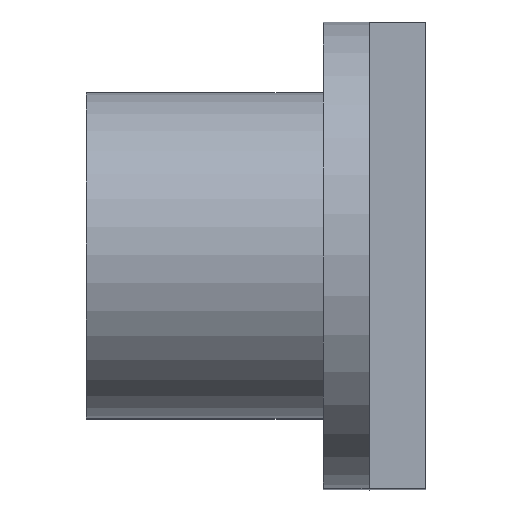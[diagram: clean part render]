
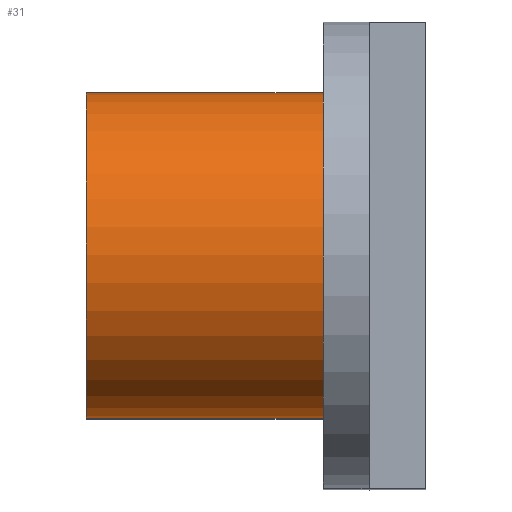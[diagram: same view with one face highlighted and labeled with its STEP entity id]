
A CAD part, top view. The second image highlights one B-rep face of the part: STEP entity #31.
In plain terms, the highlighted cylindrical face has radius 2.3 mm (diameter 4.6 mm), a partial arc.
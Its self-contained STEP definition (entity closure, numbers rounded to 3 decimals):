
#1 = VERTEX_POINT ( 'NONE', #568 ) ;
#14 = DIRECTION ( 'NONE',  ( 1., 0., 0. ) ) ;
#31 = ADVANCED_FACE ( 'NONE', ( #376 ), #41, .T. ) ;
#37 = CIRCLE ( 'NONE', #272, 2.3 ) ;
#41 = CYLINDRICAL_SURFACE ( 'NONE', #493, 2.3 ) ;
#45 = VECTOR ( 'NONE', #271, 1000. ) ;
#54 = CARTESIAN_POINT ( 'NONE',  ( -44.8, 5.9, 5. ) ) ;
#95 = DIRECTION ( 'NONE',  ( 0., 0., -1. ) ) ;
#99 = CARTESIAN_POINT ( 'NONE',  ( -44.8, 5.9, 5. ) ) ;
#110 = VECTOR ( 'NONE', #14, 1000. ) ;
#115 = CARTESIAN_POINT ( 'NONE',  ( -44.8, 10.5, 5. ) ) ;
#123 = DIRECTION ( 'NONE',  ( -1., 0., 0. ) ) ;
#132 = CARTESIAN_POINT ( 'NONE',  ( -41.45, 8.2, 5. ) ) ;
#171 = ORIENTED_EDGE ( 'NONE', *, *, #394, .F. ) ;
#172 = ORIENTED_EDGE ( 'NONE', *, *, #451, .T. ) ;
#173 = ORIENTED_EDGE ( 'NONE', *, *, #317, .F. ) ;
#178 = ORIENTED_EDGE ( 'NONE', *, *, #428, .T. ) ;
#179 = DIRECTION ( 'NONE',  ( 0., 0., -1. ) ) ;
#186 = DIRECTION ( 'NONE',  ( -1., 0., 0. ) ) ;
#211 = VERTEX_POINT ( 'NONE', #245 ) ;
#231 = CARTESIAN_POINT ( 'NONE',  ( -44.8, 8.2, 5. ) ) ;
#245 = CARTESIAN_POINT ( 'NONE',  ( -41.45, 5.9, 5. ) ) ;
#259 = AXIS2_PLACEMENT_3D ( 'NONE', #231, #186, #179 ) ;
#271 = DIRECTION ( 'NONE',  ( 1., 0., 0. ) ) ;
#272 = AXIS2_PLACEMENT_3D ( 'NONE', #132, #123, #95 ) ;
#294 = EDGE_LOOP ( 'NONE', ( #178, #173, #171, #172 ) ) ;
#317 = EDGE_CURVE ( 'NONE', #470, #1, #340, .T. ) ;
#321 = VERTEX_POINT ( 'NONE', #99 ) ;
#340 = LINE ( 'NONE', #115, #45 ) ;
#376 = FACE_OUTER_BOUND ( 'NONE', #294, .T. ) ;
#394 = EDGE_CURVE ( 'NONE', #321, #470, #414, .T. ) ;
#414 = CIRCLE ( 'NONE', #259, 2.3 ) ;
#428 = EDGE_CURVE ( 'NONE', #211, #1, #37, .T. ) ;
#451 = EDGE_CURVE ( 'NONE', #321, #211, #487, .T. ) ;
#470 = VERTEX_POINT ( 'NONE', #582 ) ;
#485 = CARTESIAN_POINT ( 'NONE',  ( -44.8, 8.2, 5. ) ) ;
#487 = LINE ( 'NONE', #54, #110 ) ;
#493 = AXIS2_PLACEMENT_3D ( 'NONE', #485, #503, #551 ) ;
#503 = DIRECTION ( 'NONE',  ( 1., 0., 0. ) ) ;
#551 = DIRECTION ( 'NONE',  ( 0., 0., -1. ) ) ;
#568 = CARTESIAN_POINT ( 'NONE',  ( -41.45, 10.5, 5. ) ) ;
#582 = CARTESIAN_POINT ( 'NONE',  ( -44.8, 10.5, 5. ) ) ;
